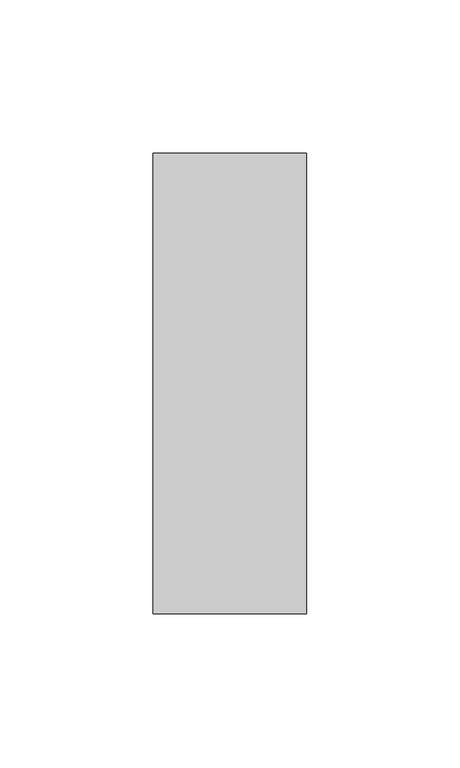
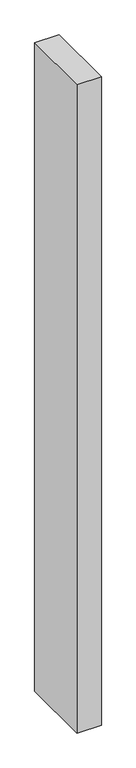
"""IFC4 building model written with IfcOpenShell, lengths in millimetres: member geometry, Прямоугольный импост : 50 x 150 мм."""

from ifc_helpers import new_model, si_unit, frame, origin, place, context, project, spatial, polyline, outline, extrude, source, transform, mapped, element, save


def member_28d44c20(model_context):
    return source(origin(), model_context, "Body", "SweptSolid", [
        extrude(outline(polyline([(25.0, 75.0), (25.0, -75.0), (-25.0, -75.0), (-25.0, 75.0), (25.0, 75.0)])), frame((0.0, 0.0, -1405.2172362), z_axis=(0.0, 0.0, 1.0), x_axis=(1.0, 0.0, 0.0)), (0.0, 0.0, 1.0), 1405.2172362),
    ])


if __name__ == "__main__":
    model = new_model("IFC4")
    model_context = context("Model", 3, world=origin())
    ifc_project = project(units=[si_unit("LENGTHUNIT", "METRE", prefix="MILLI")], contexts=[model_context])
    site = spatial("IfcSite", under=ifc_project)
    building = spatial("IfcBuilding", under=site)
    placement = place(None, origin())
    member_shape = member_28d44c20(model_context)
    element("IfcMember", 1, ObjectType="Прямоугольный импост : 50 x 150 мм", at=placement, inside=building, context=model_context, shape_type="MappedRepresentation", body=[
        mapped(member_shape, transform((0.0, 0.0, 0.0), x_axis=(1.0, 0.0, 0.0), y_axis=(0.0, 1.0, 0.0), z_axis=(0.0, 0.0, 1.0))),
    ])
    save(model, "model.ifc")
